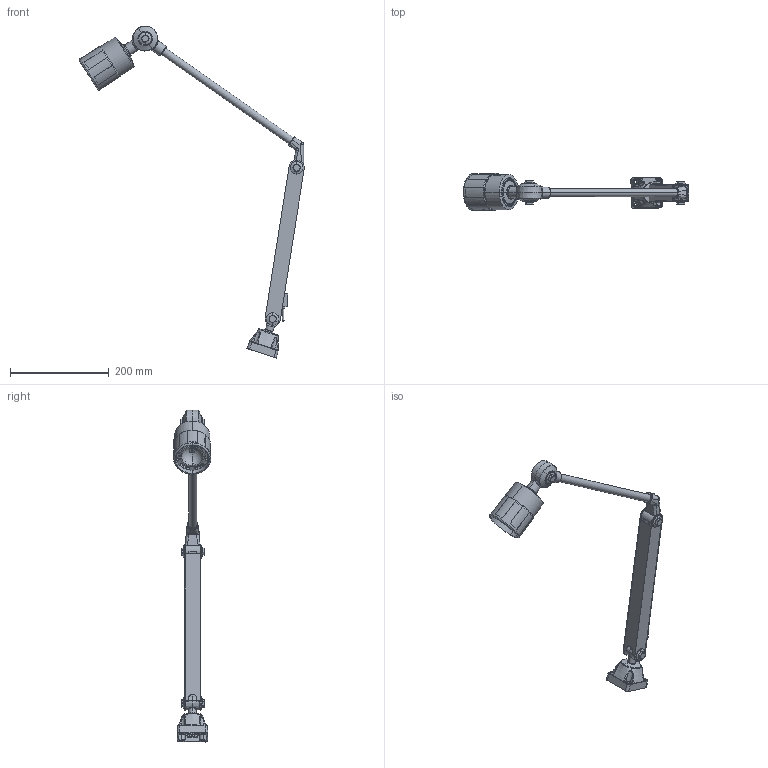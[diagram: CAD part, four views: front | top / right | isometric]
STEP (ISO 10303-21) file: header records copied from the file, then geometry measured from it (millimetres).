
FILE_DESCRIPTION((''),'2;1');
FILE_NAME('THL07-9LS6','2016-09-28T',('ABS'),(''),'PRO/ENGINEER BY PARAMETRIC TECHNOLOGY CORPORATION, 2012360','PRO/ENGINEER BY PARAMETRIC TECHNOLOGY CORPORATION, 2012360','');
FILE_SCHEMA(('CONFIG_CONTROL_DESIGN'));
Products named in the file (1): THL07-9LS6
Bounding box: 458.07 x 76.12 x 673.85 mm (x, y, z)
Volume: 413969.2 mm3; surface area: 268730.6 mm2
Topology: 2 solids, 7 shells, 1183 faces, 3548 edges, 2364 vertices
Faces by surface type: plane 439, cylinder 392, cone 132, bspline 112, torus 53, sphere 53, extrusion 2
Entity records: 55321 total; most frequent: CARTESIAN_POINT 24229, ORIENTED_EDGE 7046, DIRECTION 6014, EDGE_CURVE 3523, VERTEX_POINT 2364, AXIS2_PLACEMENT_3D 2362, EDGE_LOOP 1309, CIRCLE 1293
